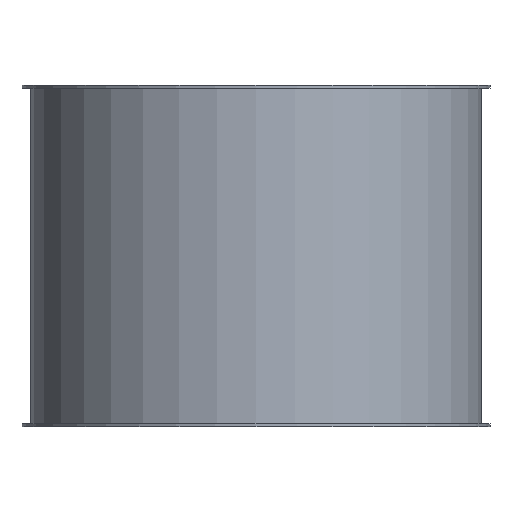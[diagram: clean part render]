
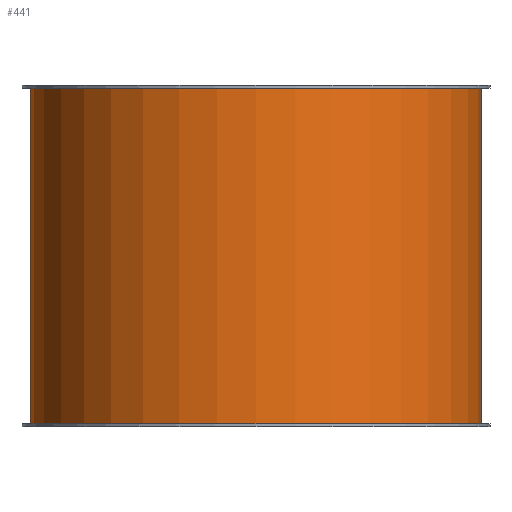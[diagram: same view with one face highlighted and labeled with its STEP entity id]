
A CAD part, front view. The second image highlights one B-rep face of the part: STEP entity #441.
In plain terms, the highlighted cylindrical face has radius 151.5 mm (diameter 303 mm), a full revolution.
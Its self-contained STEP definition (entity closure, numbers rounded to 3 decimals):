
#152=CARTESIAN_POINT('',(151.5,0.,228.0));
#153=VERTEX_POINT('',#152);
#154=CARTESIAN_POINT('',(0.0,0.0,228.0));
#155=DIRECTION('',(0.0,0.0,-1.0));
#156=DIRECTION('',(-1.0,0.0,0.0));
#157=AXIS2_PLACEMENT_3D('',#154,#155,#156);
#158=CIRCLE('',#157,151.5);
#159=EDGE_CURVE('',#153,#153,#158,.T.);
#200=CARTESIAN_POINT('',(-151.5,0.,2.0));
#201=VERTEX_POINT('',#200);
#202=CARTESIAN_POINT('',(0.0,0.0,2.0));
#203=DIRECTION('',(0.0,0.0,1.0));
#204=DIRECTION('',(-1.0,0.0,0.0));
#205=AXIS2_PLACEMENT_3D('',#202,#203,#204);
#206=CIRCLE('',#205,151.5);
#207=EDGE_CURVE('',#201,#201,#206,.T.);
#341=CARTESIAN_POINT('',(-76.5,130.767,115.));
#342=VERTEX_POINT('',#341);
#343=CARTESIAN_POINT('',(-76.5,130.767,115.));
#344=CARTESIAN_POINT('',(-76.5,130.767,110.09));
#345=CARTESIAN_POINT('',(-76.02,131.052,105.049));
#346=CARTESIAN_POINT('',(-74.038,132.181,95.09));
#347=CARTESIAN_POINT('',(-72.537,133.025,90.17));
#348=CARTESIAN_POINT('',(-68.61,135.092,80.783));
#349=CARTESIAN_POINT('',(-66.181,136.315,76.306));
#350=CARTESIAN_POINT('',(-60.599,138.887,68.044));
#351=CARTESIAN_POINT('',(-57.445,140.232,64.258));
#352=CARTESIAN_POINT('',(-50.751,142.791,57.564));
#353=CARTESIAN_POINT('',(-46.97,144.099,54.412));
#354=CARTESIAN_POINT('',(-38.706,146.535,48.826));
#355=CARTESIAN_POINT('',(-34.223,147.662,46.392));
#356=CARTESIAN_POINT('',(-24.822,149.53,42.46));
#357=CARTESIAN_POINT('',(-19.895,150.271,40.958));
#358=CARTESIAN_POINT('',(-9.932,151.257,38.978));
#359=CARTESIAN_POINT('',(-4.896,151.5,38.5));
#360=CARTESIAN_POINT('',(4.896,151.5,38.5));
#361=CARTESIAN_POINT('',(9.932,151.257,38.978));
#362=CARTESIAN_POINT('',(19.895,150.271,40.958));
#363=CARTESIAN_POINT('',(24.822,149.53,42.46));
#364=CARTESIAN_POINT('',(34.223,147.662,46.392));
#365=CARTESIAN_POINT('',(38.706,146.535,48.826));
#366=CARTESIAN_POINT('',(46.97,144.099,54.412));
#367=CARTESIAN_POINT('',(50.751,142.791,57.564));
#368=CARTESIAN_POINT('',(57.445,140.232,64.258));
#369=CARTESIAN_POINT('',(60.599,138.887,68.044));
#370=CARTESIAN_POINT('',(66.181,136.315,76.306));
#371=CARTESIAN_POINT('',(68.61,135.092,80.783));
#372=CARTESIAN_POINT('',(72.537,133.025,90.17));
#373=CARTESIAN_POINT('',(74.038,132.181,95.09));
#374=CARTESIAN_POINT('',(76.02,131.052,105.049));
#375=CARTESIAN_POINT('',(76.5,130.767,110.09));
#376=CARTESIAN_POINT('',(76.5,130.767,119.91));
#377=CARTESIAN_POINT('',(76.02,131.052,124.951));
#378=CARTESIAN_POINT('',(74.038,132.181,134.91));
#379=CARTESIAN_POINT('',(72.537,133.025,139.83));
#380=CARTESIAN_POINT('',(68.61,135.092,149.217));
#381=CARTESIAN_POINT('',(66.181,136.315,153.694));
#382=CARTESIAN_POINT('',(60.599,138.887,161.956));
#383=CARTESIAN_POINT('',(57.445,140.232,165.742));
#384=CARTESIAN_POINT('',(50.751,142.791,172.436));
#385=CARTESIAN_POINT('',(46.97,144.099,175.588));
#386=CARTESIAN_POINT('',(38.706,146.535,181.174));
#387=CARTESIAN_POINT('',(34.223,147.662,183.608));
#388=CARTESIAN_POINT('',(24.822,149.53,187.54));
#389=CARTESIAN_POINT('',(19.895,150.271,189.042));
#390=CARTESIAN_POINT('',(9.932,151.257,191.022));
#391=CARTESIAN_POINT('',(4.896,151.5,191.5));
#392=CARTESIAN_POINT('',(-4.896,151.5,191.5));
#393=CARTESIAN_POINT('',(-9.932,151.257,191.022));
#394=CARTESIAN_POINT('',(-19.895,150.271,189.042));
#395=CARTESIAN_POINT('',(-24.822,149.53,187.54));
#396=CARTESIAN_POINT('',(-34.223,147.662,183.608));
#397=CARTESIAN_POINT('',(-38.706,146.535,181.174));
#398=CARTESIAN_POINT('',(-46.97,144.099,175.588));
#399=CARTESIAN_POINT('',(-50.751,142.791,172.436));
#400=CARTESIAN_POINT('',(-57.445,140.232,165.742));
#401=CARTESIAN_POINT('',(-60.599,138.887,161.956));
#402=CARTESIAN_POINT('',(-66.181,136.315,153.694));
#403=CARTESIAN_POINT('',(-68.61,135.092,149.217));
#404=CARTESIAN_POINT('',(-72.537,133.025,139.83));
#405=CARTESIAN_POINT('',(-74.038,132.181,134.91));
#406=CARTESIAN_POINT('',(-76.02,131.052,124.951));
#407=CARTESIAN_POINT('',(-76.5,130.767,119.91));
#408=CARTESIAN_POINT('',(-76.5,130.767,115.0));
#409=B_SPLINE_CURVE_WITH_KNOTS('',3,(#343,#344,#345,#346,#347,#348,#349,#350,#351,#352,#353,#354,#355,#356,#357,#358,#359,#360,#361,#362,#363,#364,#365,#366,#367,#368,#369,#370,#371,#372,#373,#374,#375,#376,#377,#378,#379,#380,#381,#382,#383,#384,#385,#386,#387,#388,#389,#390,#391,#392,#393,#394,#395,#396,#397,#398,#399,#400,#401,#402,#403,#404,#405,#406,#407,#408),.UNSPECIFIED.,.T.,.U.,(4,2,2,2,2,2,2,2,2,2,2,2,2,2,2,2,2,2,2,2,2,2,2,2,2,2,2,2,2,2,2,2,4),(0.0,1.473,2.946,4.419,5.892,7.361,8.83,10.299,11.768,13.237,14.706,16.174,17.643,19.116,20.589,22.062,23.536,25.009,26.482,27.955,29.428,30.897,32.366,33.834,35.303,36.772,38.241,39.71,41.179,42.652,44.125,45.598,47.071),.UNSPECIFIED.);
#410=EDGE_CURVE('',#342,#342,#409,.T.);
#427=CARTESIAN_POINT('',(0.0,0.0,0.0));
#428=DIRECTION('',(0.0,0.0,1.0));
#429=DIRECTION('',(-1.0,0.0,0.0));
#430=AXIS2_PLACEMENT_3D('',#427,#428,#429);
#431=CYLINDRICAL_SURFACE('',#430,151.5);
#432=ORIENTED_EDGE('',*,*,#159,.T.);
#433=EDGE_LOOP('',(#432));
#434=FACE_OUTER_BOUND('',#433,.T.);
#435=ORIENTED_EDGE('',*,*,#207,.T.);
#436=EDGE_LOOP('',(#435));
#437=FACE_BOUND('',#436,.T.);
#438=ORIENTED_EDGE('',*,*,#410,.T.);
#439=EDGE_LOOP('',(#438));
#440=FACE_BOUND('',#439,.T.);
#441=ADVANCED_FACE('',(#434,#437,#440),#431,.T.);
